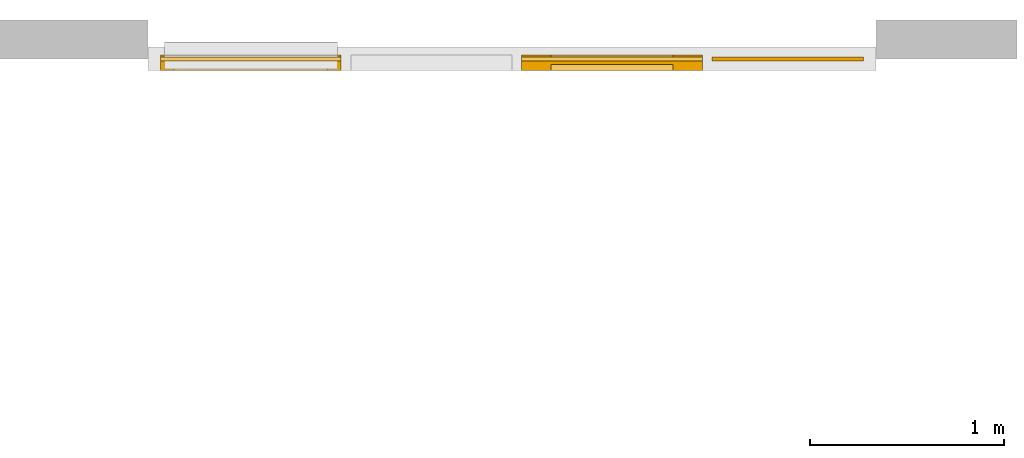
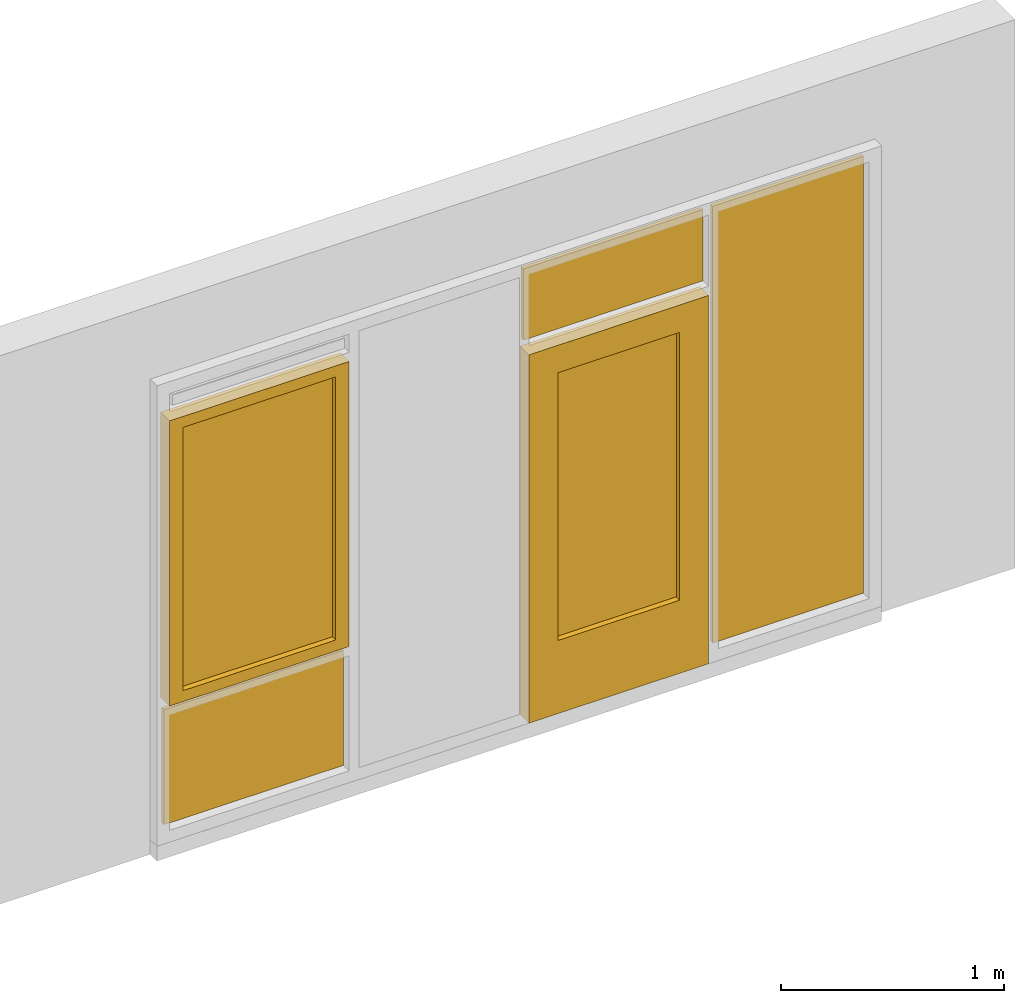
# One storey, part 3 of 4: 4 windows, 1 door, 1 element without a shape of its own.
"""IFC4 building model written with IfcOpenShell, lengths in millimetres."""

from ifc_helpers import new_model, entity, si_unit, converted_unit, derived_unit, direction, frame, origin, place, context, subcontext, project, spatial, indexed_curve, outline, extrude, source, transform, mapped, material, constituent, constituent_set, type_object, type_shapes, element, aggregate, save


model = new_model("IFC4")

# Units and contexts
model_context = context("Model", 3, precision=0.01, world=origin(), true_north=direction((6.123031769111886e-17, 1.0)))
plan_context = context("Plan", 3, precision=0.01, world=origin(), true_north=direction((6.123031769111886e-17, 1.0)))
body_context = subcontext(model_context, "Body", "Model", "MODEL_VIEW")
ifc_project = project(units=[si_unit("LENGTHUNIT", "METRE", prefix="MILLI"), converted_unit("PLANEANGLEUNIT", "DEGREE", entity("IfcPlaneAngleMeasure", 0.017453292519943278), si_unit("PLANEANGLEUNIT", "RADIAN"), dimensions=[0, 0, 0, 0, 0, 0, 0]), si_unit("AREAUNIT", "SQUARE_METRE"), si_unit("VOLUMEUNIT", "CUBIC_METRE"), si_unit("POWERUNIT", "WATT"), derived_unit("USERDEFINED", [(si_unit("MASSUNIT", "GRAM", prefix="KILO"), 1), (si_unit("TIMEUNIT", "SECOND"), -3)])], contexts=[model_context, plan_context])

# Site, building, storey
site_placement = place(None, origin())
site = spatial("IfcSite", under=ifc_project, at=site_placement, Name="[ComplexCode]", CompositionType="ELEMENT")
building_placement = place(site_placement, origin())
building = spatial("IfcBuilding", under=site, at=building_placement, Name="[BouwwerkCode]", CompositionType="ELEMENT")
storey_placement = place(building_placement, origin())
storey = spatial("IfcBuildingStorey", under=building, at=storey_placement, Name="00", CompositionType="ELEMENT", Elevation=0.0)

# Assembly, windows, door
element_assembly_type = type_object("IfcElementAssemblyType", Name="Assemblies : Generic Models Assembly : kozijncombinatie_buiten", PredefinedType="NOTDEFINED")
assembly_placement = place(storey_placement, origin())
assembly = element("IfcElementAssembly", 1, at=assembly_placement, inside=storey, type_object=element_assembly_type, Name="Assemblies : Generic Models Assembly : kozijncombinatie_buiten", ObjectType="kozijncombinatie", AssemblyPlace="NOTDEFINED", PredefinedType="NOTDEFINED")
ifc_material_1 = material(Name="hout", Category="Hout")
ifc_constituent_1 = constituent(ifc_material_1, Name="hout", Category="Hout")
ifc_material_2 = material(Name="glas", Category="Glas")
ifc_constituent_2 = constituent(ifc_material_2, Name="glas", Category="Glas")
ifc_constituent_set_1 = constituent_set(constituents=[ifc_constituent_1, ifc_constituent_2])
ifc_constituent_3 = constituent(ifc_material_1, Name="Frame/Mullion", Category="Hout")
ifc_constituent_4 = constituent(ifc_material_2, Name="Glass", Category="Glas")
ifc_constituent_set_2 = constituent_set(constituents=[ifc_constituent_3, ifc_constituent_4])
window_type_1 = type_object("IfcWindowType", Name="Windows : RBS_3-_WI_raam_paneel_SH : links_buiten", PartitioningType="NOTDEFINED", PredefinedType="WINDOW", material=ifc_constituent_set_2)
shared_shape_1 = source(origin(), body_context, "Body", "SweptSolid", [
    extrude(outline(indexed_curve([(-465.00000000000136, -40.00000000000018), (465.00000000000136, -40.00000000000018), (465.00000000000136, 40.00000000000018), (-465.00000000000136, 40.00000000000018), (-465.00000000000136, -40.00000000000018)], self_intersect=False)), frame((0.0, 0.0, 1500.0), z_axis=(0.0, 0.0, 1.0), x_axis=(-1.0, 0.0, 0.0)), (0.0, 0.0, 1.0), 59.99999999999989),
    extrude(outline(indexed_curve([(-40.00000000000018, -35.000000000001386), (40.00000000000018, -35.000000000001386), (40.00000000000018, 35.00000000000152), (-40.00000000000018, 35.00000000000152), (-40.00000000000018, -35.000000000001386)], self_intersect=False)), frame((430.0, 0.0, 60.0), z_axis=(0.0, 0.0, 1.0), x_axis=(0.0, -1.0, 0.0)), (0.0, 0.0, 1.0), 1440.0),
    extrude(outline(indexed_curve([(-465.00000000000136, -40.00000000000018), (465.00000000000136, -40.00000000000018), (465.00000000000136, 40.00000000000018), (-465.00000000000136, 40.00000000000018), (-465.00000000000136, -40.00000000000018)], self_intersect=False)), frame((0.0, 0.0, 0.0), z_axis=(0.0, 0.0, 1.0), x_axis=(-1.0, 0.0, 0.0)), (0.0, 0.0, 1.0), 59.999999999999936),
    extrude(outline(indexed_curve([(-35.00000000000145, -40.00000000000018), (35.00000000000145, -40.00000000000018), (35.00000000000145, 40.00000000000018), (-35.00000000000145, 40.00000000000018), (-35.00000000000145, -40.00000000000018)], self_intersect=False)), frame((-430.0, 0.0, 60.0), z_axis=(0.0, 0.0, 1.0), x_axis=(-1.0, 0.0, 0.0)), (0.0, 0.0, 1.0), 1440.0),
    extrude(outline(indexed_curve([(-9.999999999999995, -395.00000000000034), (9.999999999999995, -395.00000000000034), (9.999999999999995, 395.00000000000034), (-9.999999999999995, 395.00000000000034), (-9.999999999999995, -395.00000000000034)], self_intersect=False)), frame((0.0, 0.0, 60.0), z_axis=(0.0, 0.0, 1.0), x_axis=(0.0, 1.0, 0.0)), (0.0, 0.0, 1.0), 1440.0000000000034),
])
type_shapes(window_type_1, [shared_shape_1])
window_1_placement = place(assembly_placement, frame((12405.0, 7380.0, 825.0), z_axis=(0.0, 0.0, 1.0), x_axis=(-1.0, 0.0, 0.0)))
window_1 = element("IfcWindow", 2, at=window_1_placement, type_object=window_type_1, material=ifc_constituent_set_1, Name="Windows : RBS_3-_WI_raam_paneel_SH : links_buiten", ObjectType="raam", OverallHeight=398.0787332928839, OverallWidth=930.00000000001, PartitioningType="NOTDEFINED", PredefinedType="WINDOW", context=body_context, shape_type="MappedRepresentation", body=[
    mapped(shared_shape_1, transform((0.0, 0.0, 0.0), scale=1.0)),
])
window_type_2 = type_object("IfcWindowType", Name="Windows : RBS_3-_WI_pui_glas_SH : buiten", PartitioningType="NOTDEFINED", PredefinedType="WINDOW", material=ifc_material_2)
shared_shape_2 = source(origin(), body_context, "Body", "SweptSolid", [
    extrude(outline(indexed_curve([(-9.999999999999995, -390.0000000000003), (9.999999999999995, -390.0000000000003), (9.999999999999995, 390.0000000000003), (-9.999999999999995, 390.0000000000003), (-9.999999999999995, -390.0000000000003)], self_intersect=False)), frame((0.0, 0.0, 0.0), z_axis=(0.0, 0.0, 1.0), x_axis=(0.0, 1.0, 0.0)), (0.0, 0.0, 1.0), 2390.000000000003),
])
type_shapes(window_type_2, [shared_shape_2])
window_2_placement = place(assembly_placement, frame((15170.0, 7400.0, 145.0), z_axis=(0.0, 0.0, 1.0), x_axis=(-1.0, 0.0, 0.0)))
window_2 = element("IfcWindow", 3, at=window_2_placement, type_object=window_type_2, material=ifc_material_2, Name="Windows : RBS_3-_WI_pui_glas_SH : buiten", ObjectType="raam", OverallHeight=80.00000000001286, OverallWidth=780.0000000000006, PartitioningType="NOTDEFINED", PredefinedType="WINDOW", context=body_context, shape_type="MappedRepresentation", body=[
    mapped(shared_shape_2, transform((0.0, 0.0, 0.0), scale=1.0)),
])
window_type_3 = type_object("IfcWindowType", Name="Windows : RBS_3-_WI_pui_glas_SH : buiten", PartitioningType="NOTDEFINED", PredefinedType="WINDOW", material=ifc_material_2)
shared_shape_3 = source(origin(), body_context, "Body", "SweptSolid", [
    extrude(outline(indexed_curve([(-9.999999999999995, -465.0000000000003), (9.999999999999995, -465.0000000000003), (9.999999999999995, 465.0000000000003), (-9.999999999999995, 465.0000000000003), (-9.999999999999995, -465.0000000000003)], self_intersect=False)), frame((0.0, 0.0, 0.0), z_axis=(0.0, 0.0, 1.0), x_axis=(0.0, 1.0, 0.0)), (0.0, 0.0, 1.0), 390.0000000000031),
])
type_shapes(window_type_3, [shared_shape_3])
window_3_placement = place(assembly_placement, frame((14265.0, 7400.0, 2145.0), z_axis=(0.0, 0.0, 1.0), x_axis=(-1.0, 0.0, 0.0)))
window_3 = element("IfcWindow", 4, at=window_3_placement, type_object=window_type_3, material=ifc_material_2, Name="Windows : RBS_3-_WI_pui_glas_SH : buiten", ObjectType="raam", OverallHeight=80.00000000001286, OverallWidth=930.0000000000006, PartitioningType="NOTDEFINED", PredefinedType="WINDOW", context=body_context, shape_type="MappedRepresentation", body=[
    mapped(shared_shape_3, transform((0.0, 0.0, 0.0), scale=1.0)),
])
window_type_4 = type_object("IfcWindowType", Name="Windows : RBS_3-_WI_pui_glas_SH : buiten", PartitioningType="NOTDEFINED", PredefinedType="WINDOW", material=ifc_material_2)
shared_shape_4 = source(origin(), body_context, "Body", "SweptSolid", [
    extrude(outline(indexed_curve([(-9.999999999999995, -465.0000000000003), (9.999999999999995, -465.0000000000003), (9.999999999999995, 465.0000000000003), (-9.999999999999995, 465.0000000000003), (-9.999999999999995, -465.0000000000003)], self_intersect=False)), frame((0.0, 0.0, 0.0), z_axis=(0.0, 0.0, 1.0), x_axis=(0.0, 1.0, 0.0)), (0.0, 0.0, 1.0), 630.0000000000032),
])
type_shapes(window_type_4, [shared_shape_4])
window_4_placement = place(assembly_placement, frame((12405.0, 7400.0, 145.0), z_axis=(0.0, 0.0, 1.0), x_axis=(-1.0, 0.0, 0.0)))
window_4 = element("IfcWindow", 5, at=window_4_placement, type_object=window_type_4, material=ifc_material_2, Name="Windows : RBS_3-_WI_pui_glas_SH : buiten", ObjectType="raam", OverallHeight=80.00000000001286, OverallWidth=930.0000000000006, PartitioningType="NOTDEFINED", PredefinedType="WINDOW", context=body_context, shape_type="MappedRepresentation", body=[
    mapped(shared_shape_4, transform((0.0, 0.0, 0.0), scale=1.0)),
])
ifc_constituent_5 = constituent(ifc_material_2, Name="glas", Category="Glas")
ifc_constituent_6 = constituent(ifc_material_1, Name="hout", Category="Hout")
ifc_constituent_set_3 = constituent_set(constituents=[ifc_constituent_5, ifc_constituent_6])
ifc_constituent_7 = constituent(ifc_material_2, Name="Glass", Category="Glas")
ifc_constituent_8 = constituent(ifc_material_1, Name="Panel", Category="Hout")
ifc_constituent_set_4 = constituent_set(constituents=[ifc_constituent_7, ifc_constituent_8])
door_type = type_object("IfcDoorType", Name="Doors : RBS_31_DO_deur_buiten_stomp_glas_1_paneel_SH : linksdraaiend", OperationType="SINGLE_SWING_RIGHT", PredefinedType="DOOR", material=ifc_constituent_set_4)
shared_shape_5 = source(origin(), body_context, "Body", "SweptSolid", [
    extrude(outline(indexed_curve([(-9.999999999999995, -315.0000000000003), (9.999999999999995, -315.0000000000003), (9.999999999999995, 315.0000000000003), (-9.999999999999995, 315.0000000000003), (-9.999999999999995, -315.0000000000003)], self_intersect=False)), frame((465.0, 0.0, 400.0), z_axis=(0.0, 0.0, 1.0), x_axis=(0.0, 1.0, 0.0)), (0.0, 0.0, 1.0), 1465.0000000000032),
    extrude(outline(indexed_curve([(-1007.4999999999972, -464.99999999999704), (1007.4999999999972, -464.99999999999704), (1007.4999999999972, 464.99999999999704), (-1007.4999999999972, 464.99999999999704), (-1007.4999999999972, -464.99999999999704)], self_intersect=False), holes=[indexed_curve([(-857.5000000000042, -314.99999999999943), (-857.5000000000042, 314.99999999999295), (607.4999999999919, 314.99999999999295), (607.4999999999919, -314.99999999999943), (-857.5000000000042, -314.99999999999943)], self_intersect=False)]), frame((465.0, -40.0, 1007.499999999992), z_axis=(0.0, 1.0, 0.0), x_axis=(0.0, 0.0, -1.0)), (0.0, 0.0, 1.0), 80.00000000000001),
])
type_shapes(door_type, [shared_shape_5])
door_placement = place(assembly_placement, frame((14730.0, 7380.0, 80.0), z_axis=(0.0, 0.0, 1.0), x_axis=(-1.0, 0.0, 0.0)))
door = element("IfcDoor", 6, at=door_placement, type_object=door_type, material=ifc_constituent_set_3, Name="Doors : RBS_31_DO_deur_buiten_stomp_glas_1_paneel_SH : linksdraaiend", ObjectType="deur", OperationType="SINGLE_SWING_RIGHT", OverallHeight=1010.0000000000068, OverallWidth=930.000000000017, PredefinedType="DOOR", context=body_context, shape_type="MappedRepresentation", body=[
    mapped(shared_shape_5, transform((0.0, 0.0, 0.0), scale=1.0)),
])
aggregate(assembly, [window_1, window_2, window_3, window_4, door])

save(model, "model.ifc")
